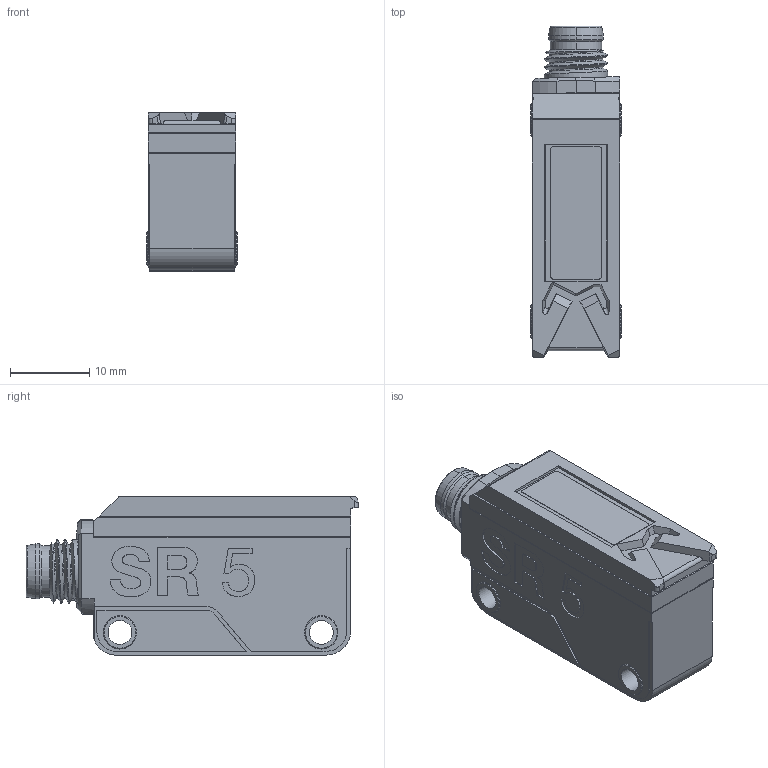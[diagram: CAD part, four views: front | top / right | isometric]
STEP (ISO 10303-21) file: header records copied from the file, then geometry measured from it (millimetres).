
FILE_DESCRIPTION(/* description */ (''),/* implementation_level */ '2;1');
FILE_NAME(/* name */ '3DCAD_BR5B_M8.stp',/* time_stamp */ '2021-08-27T08:42:37+02:00',/* author */ ('CC2'),/* organization */ ('Leuze electronic'),/* preprocessor_version */ 'ST-DEVELOPER v16',/* originating_system */ 'SIEMENS PLM Software NX 11.0',/* authorisation */ '');
FILE_SCHEMA (('AUTOMOTIVE_DESIGN { 1 0 10303 214 3 1 1 1 }'));
Length unit declared in the file: millimetre
Products named in the file (1): 19-103338_00_1-3DCAD_BR5B_M8
Bounding box: 11.4 x 41.88 x 20.02 mm (x, y, z)
Volume: 7110.5 mm3; surface area: 3272.8 mm2
Topology: 1 solids, 1 shells, 308 faces, 814 edges, 537 vertices
Faces by surface type: plane 173, cylinder 57, extrusion 52, cone 15, bspline 10, torus 1
Full cylindrical faces by diameter (mm): 1 x4, 3 x2, 4.2 x4, 5.8 x1, 8 x3
Entity records: 12571 total; most frequent: CARTESIAN_POINT 3324, ORIENTED_EDGE 1564, DIRECTION 1318, EDGE_CURVE 782, VECTOR 570, VERTEX_POINT 528, LINE 518, AXIS2_PLACEMENT_3D 374
